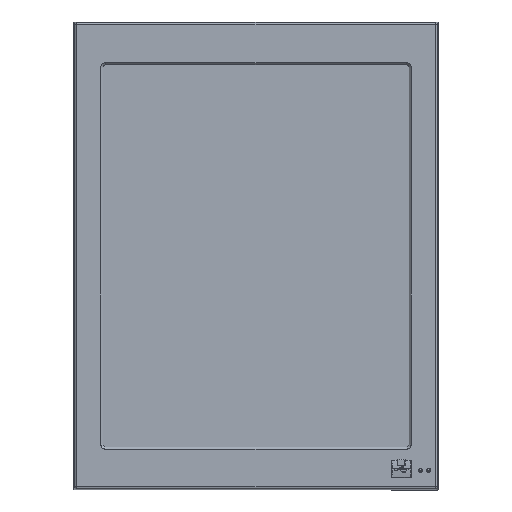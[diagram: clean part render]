
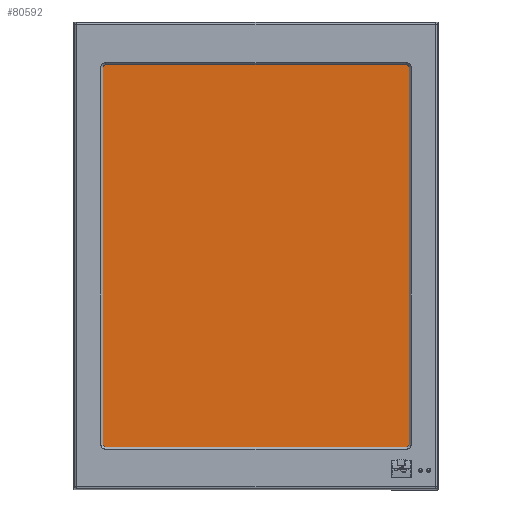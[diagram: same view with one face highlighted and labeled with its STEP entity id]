
A CAD part, top view. The second image highlights one B-rep face of the part: STEP entity #80592.
In plain terms, the highlighted planar face has unit normal (0, 0, 1) as drawn and (0, 1, 0) by its records, which use the part's own axes.
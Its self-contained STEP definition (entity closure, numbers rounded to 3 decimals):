
#2545 = CARTESIAN_POINT ( 'NONE',  ( 11.64, 2., -314.23 ) ) ;
#3447 = EDGE_LOOP ( 'NONE', ( #62471, #93398, #29262, #110001 ) ) ;
#3625 = CARTESIAN_POINT ( 'NONE',  ( 11.64, 2., -12.17 ) ) ;
#5271 = CARTESIAN_POINT ( 'NONE',  ( 388.96, 2., -12.17 ) ) ;
#14171 = CARTESIAN_POINT ( 'NONE',  ( 11.64, 2., -12.17 ) ) ;
#14723 = VECTOR ( 'NONE', #76473, 1000. ) ;
#17431 = CARTESIAN_POINT ( 'NONE',  ( 388.96, 2., -12.17 ) ) ;
#18271 = DIRECTION ( 'NONE',  ( 1., 0., 0. ) ) ;
#19261 = DIRECTION ( 'NONE',  ( 0., 0., -1. ) ) ;
#29262 = ORIENTED_EDGE ( 'NONE', *, *, #100242, .T. ) ;
#34631 = VECTOR ( 'NONE', #18271, 1000. ) ;
#45218 = CARTESIAN_POINT ( 'NONE',  ( 11.64, 2., -12.17 ) ) ;
#47420 = CARTESIAN_POINT ( 'NONE',  ( 11.64, 2., -314.23 ) ) ;
#47735 = EDGE_CURVE ( 'NONE', #141274, #60907, #96170, .T. ) ;
#51001 = CARTESIAN_POINT ( 'NONE',  ( 11.64, 2., -314.23 ) ) ;
#52549 = VERTEX_POINT ( 'NONE', #45218 ) ;
#60907 = VERTEX_POINT ( 'NONE', #2545 ) ;
#62471 = ORIENTED_EDGE ( 'NONE', *, *, #129834, .T. ) ;
#64881 = PLANE ( 'NONE',  #146507 ) ;
#65510 = DIRECTION ( 'NONE',  ( 0., 0., -1. ) ) ;
#76473 = DIRECTION ( 'NONE',  ( -1., 0., 0. ) ) ;
#77608 = LINE ( 'NONE', #3625, #34631 ) ;
#80592 = ADVANCED_FACE ( 'NONE', ( #87026 ), #64881, .F. ) ;
#86823 = DIRECTION ( 'NONE',  ( 0., 0., 1. ) ) ;
#87011 = VECTOR ( 'NONE', #86823, 1000. ) ;
#87026 = FACE_OUTER_BOUND ( 'NONE', #3447, .T. ) ;
#93398 = ORIENTED_EDGE ( 'NONE', *, *, #142523, .T. ) ;
#96170 = LINE ( 'NONE', #47420, #14723 ) ;
#100242 = EDGE_CURVE ( 'NONE', #183411, #141274, #148658, .T. ) ;
#110001 = ORIENTED_EDGE ( 'NONE', *, *, #47735, .T. ) ;
#125422 = LINE ( 'NONE', #14171, #87011 ) ;
#129216 = CARTESIAN_POINT ( 'NONE',  ( 388.96, 2., -314.23 ) ) ;
#129834 = EDGE_CURVE ( 'NONE', #60907, #52549, #125422, .T. ) ;
#141274 = VERTEX_POINT ( 'NONE', #129216 ) ;
#142523 = EDGE_CURVE ( 'NONE', #52549, #183411, #77608, .T. ) ;
#146507 = AXIS2_PLACEMENT_3D ( 'NONE', #51001, #151942, #65510 ) ;
#148658 = LINE ( 'NONE', #5271, #187136 ) ;
#151942 = DIRECTION ( 'NONE',  ( 0., -1., 0. ) ) ;
#183411 = VERTEX_POINT ( 'NONE', #17431 ) ;
#187136 = VECTOR ( 'NONE', #19261, 1000. ) ;
